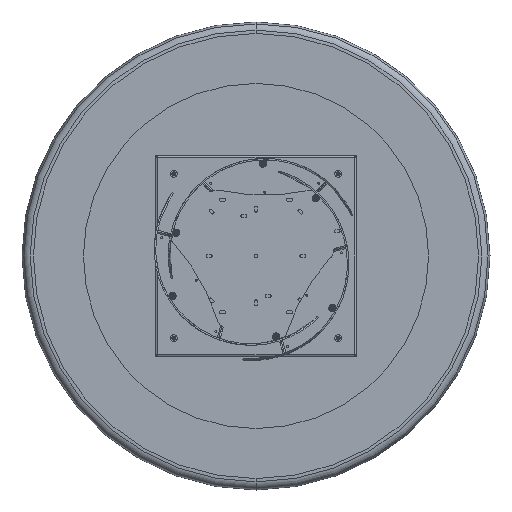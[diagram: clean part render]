
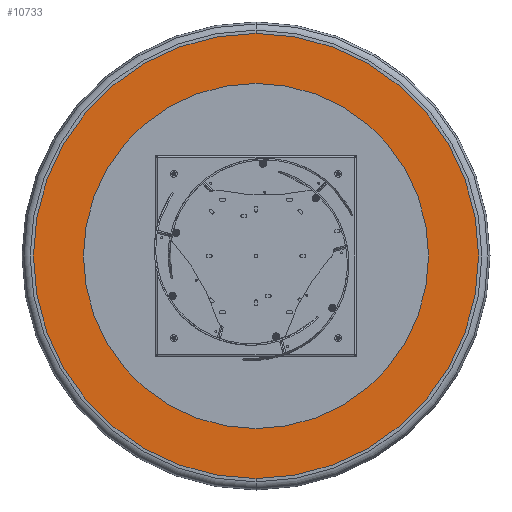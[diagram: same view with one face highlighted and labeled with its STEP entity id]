
A CAD part, front view. The second image highlights one B-rep face of the part: STEP entity #10733.
In plain terms, the highlighted planar face has unit normal (0, -1, 0).
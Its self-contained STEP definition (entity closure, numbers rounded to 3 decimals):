
#329 = AXIS2_PLACEMENT_3D ( 'NONE', #17378, #7937, #3484 ) ;
#351 = AXIS2_PLACEMENT_3D ( 'NONE', #1844, #4997, #17111 ) ;
#1283 = CARTESIAN_POINT ( 'NONE',  ( 0., -56., 0. ) ) ;
#1298 = CIRCLE ( 'NONE', #351, 761. ) ;
#1506 = CARTESIAN_POINT ( 'NONE',  ( 0., -56., 0. ) ) ;
#1827 = CARTESIAN_POINT ( 'NONE',  ( 0., -56., 590. ) ) ;
#1844 = CARTESIAN_POINT ( 'NONE',  ( 0., -56., 0. ) ) ;
#3484 = DIRECTION ( 'NONE',  ( 0., 0., -1. ) ) ;
#4997 = DIRECTION ( 'NONE',  ( 0., 1., 0. ) ) ;
#5245 = CARTESIAN_POINT ( 'NONE',  ( 0., -56., -761. ) ) ;
#5410 = CIRCLE ( 'NONE', #18618, 590. ) ;
#5616 = EDGE_CURVE ( 'NONE', #19266, #7758, #9071, .T. ) ;
#5928 = DIRECTION ( 'NONE',  ( 0., -1., 0. ) ) ;
#5956 = EDGE_CURVE ( 'NONE', #15761, #7003, #1298, .T. ) ;
#6164 = EDGE_CURVE ( 'NONE', #7003, #15761, #6963, .T. ) ;
#6805 = EDGE_LOOP ( 'NONE', ( #8522, #9114 ) ) ;
#6963 = CIRCLE ( 'NONE', #17946, 761. ) ;
#7003 = VERTEX_POINT ( 'NONE', #16340 ) ;
#7531 = DIRECTION ( 'NONE',  ( 0., 0., 1. ) ) ;
#7758 = VERTEX_POINT ( 'NONE', #1827 ) ;
#7937 = DIRECTION ( 'NONE',  ( 0., -1., 0. ) ) ;
#8083 = ORIENTED_EDGE ( 'NONE', *, *, #5616, .F. ) ;
#8178 = EDGE_LOOP ( 'NONE', ( #8083, #8419 ) ) ;
#8419 = ORIENTED_EDGE ( 'NONE', *, *, #18901, .F. ) ;
#8522 = ORIENTED_EDGE ( 'NONE', *, *, #6164, .F. ) ;
#9071 = CIRCLE ( 'NONE', #13153, 590. ) ;
#9114 = ORIENTED_EDGE ( 'NONE', *, *, #5956, .F. ) ;
#9878 = CARTESIAN_POINT ( 'NONE',  ( 0., -56., -590. ) ) ;
#9903 = DIRECTION ( 'NONE',  ( 0., -1., 0. ) ) ;
#10733 = ADVANCED_FACE ( 'NONE', ( #17186, #12660 ), #18676, .T. ) ;
#12660 = FACE_OUTER_BOUND ( 'NONE', #6805, .T. ) ;
#12762 = DIRECTION ( 'NONE',  ( 0., 0., -1. ) ) ;
#13153 = AXIS2_PLACEMENT_3D ( 'NONE', #1283, #5928, #17936 ) ;
#15392 = DIRECTION ( 'NONE',  ( 0., 1., 0. ) ) ;
#15761 = VERTEX_POINT ( 'NONE', #5245 ) ;
#16340 = CARTESIAN_POINT ( 'NONE',  ( 0., -56., 761. ) ) ;
#17111 = DIRECTION ( 'NONE',  ( 0., 0., 1. ) ) ;
#17186 = FACE_BOUND ( 'NONE', #8178, .T. ) ;
#17378 = CARTESIAN_POINT ( 'NONE',  ( 0., -56., 761. ) ) ;
#17478 = CARTESIAN_POINT ( 'NONE',  ( 0., -56., 0. ) ) ;
#17936 = DIRECTION ( 'NONE',  ( 0., 0., -1. ) ) ;
#17946 = AXIS2_PLACEMENT_3D ( 'NONE', #1506, #15392, #7531 ) ;
#18618 = AXIS2_PLACEMENT_3D ( 'NONE', #17478, #9903, #12762 ) ;
#18676 = PLANE ( 'NONE',  #329 ) ;
#18901 = EDGE_CURVE ( 'NONE', #7758, #19266, #5410, .T. ) ;
#19266 = VERTEX_POINT ( 'NONE', #9878 ) ;
